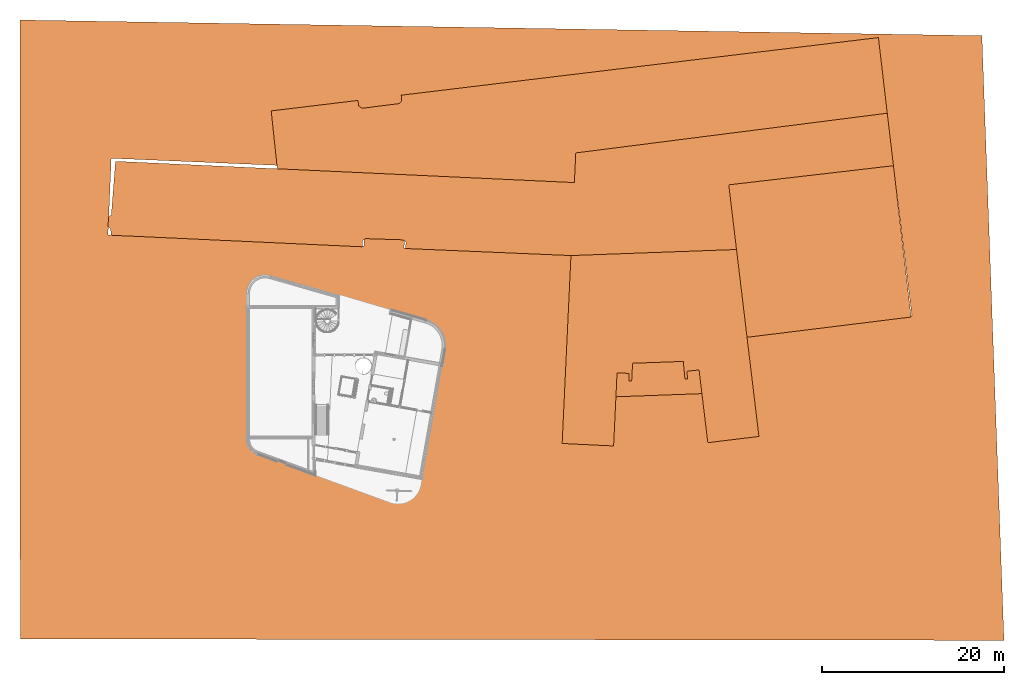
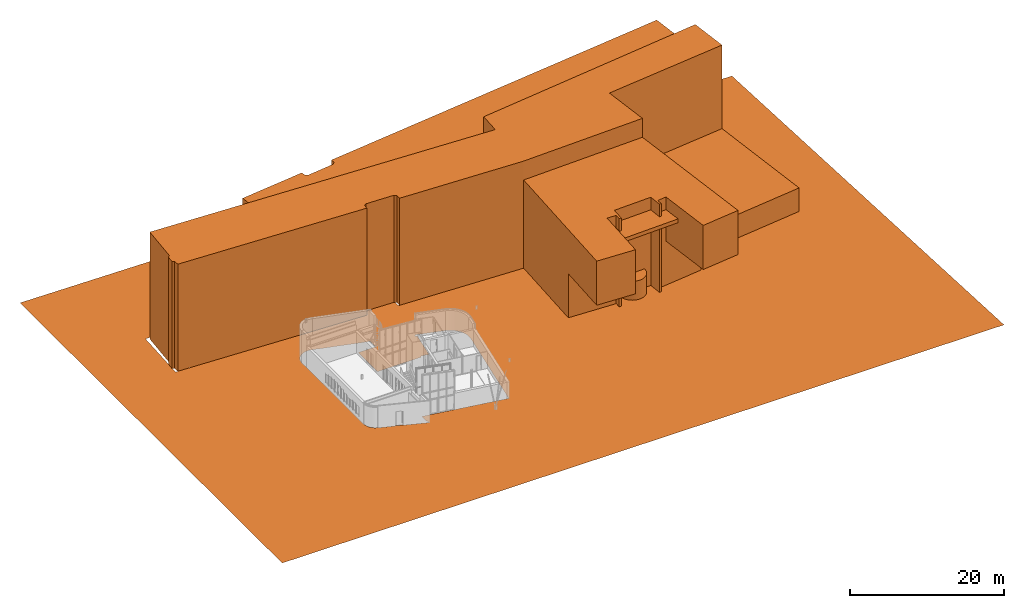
# One storey, part 21 of 21: 2 proxies.
"""IFC2X3 building model written with IfcOpenShell, lengths in millimetres."""

from ifc_helpers import new_model, entity, si_unit, converted_unit, derived_unit, direction, frame, origin, place, context, subcontext, project, spatial, face_set, faceted_brep, surface_model, source, transform, mapped, material, material_list, type_object, type_shapes, element, save


model = new_model("IFC2X3")

# Units and contexts
model_context = context("Model", 3, precision=0.01, world=origin(), true_north=direction((6.12303176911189e-17, 1.0)))
body_context = subcontext(model_context, "Body", "Model", "MODEL_VIEW")
ifc_project = project(units=[si_unit("LENGTHUNIT", "METRE", prefix="MILLI"), si_unit("AREAUNIT", "SQUARE_METRE"), si_unit("VOLUMEUNIT", "CUBIC_METRE"), converted_unit("PLANEANGLEUNIT", "DEGREE", entity("IfcRatioMeasure", 0.0174532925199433), si_unit("PLANEANGLEUNIT", "RADIAN"), dimensions=[0, 0, 0, 0, 0, 0, 0]), si_unit("MASSUNIT", "GRAM", prefix="KILO"), derived_unit("MASSDENSITYUNIT", [(si_unit("MASSUNIT", "GRAM", prefix="KILO"), 1), (si_unit("LENGTHUNIT", "METRE"), -3)]), derived_unit("MOMENTOFINERTIAUNIT", [(si_unit("LENGTHUNIT", "METRE"), 4)]), si_unit("TIMEUNIT", "SECOND"), si_unit("FREQUENCYUNIT", "HERTZ"), si_unit("THERMODYNAMICTEMPERATUREUNIT", "DEGREE_CELSIUS"), derived_unit("THERMALTRANSMITTANCEUNIT", [(si_unit("MASSUNIT", "GRAM", prefix="KILO"), 1), (si_unit("THERMODYNAMICTEMPERATUREUNIT", "KELVIN"), -1), (si_unit("TIMEUNIT", "SECOND"), -3)]), derived_unit("VOLUMETRICFLOWRATEUNIT", [(si_unit("LENGTHUNIT", "METRE"), 3), (si_unit("TIMEUNIT", "SECOND"), -1)]), si_unit("ELECTRICCURRENTUNIT", "AMPERE"), si_unit("ELECTRICVOLTAGEUNIT", "VOLT"), si_unit("POWERUNIT", "WATT"), si_unit("FORCEUNIT", "NEWTON", prefix="KILO"), si_unit("ILLUMINANCEUNIT", "LUX"), si_unit("LUMINOUSFLUXUNIT", "LUMEN"), si_unit("LUMINOUSINTENSITYUNIT", "CANDELA"), derived_unit("USERDEFINED", [(si_unit("MASSUNIT", "GRAM", prefix="KILO"), -1), (si_unit("LENGTHUNIT", "METRE"), -2), (si_unit("TIMEUNIT", "SECOND"), 3), (si_unit("LUMINOUSFLUXUNIT", "LUMEN"), 1)]), derived_unit("LINEARVELOCITYUNIT", [(si_unit("LENGTHUNIT", "METRE"), 1), (si_unit("TIMEUNIT", "SECOND"), -1)]), si_unit("PRESSUREUNIT", "PASCAL"), derived_unit("USERDEFINED", [(si_unit("LENGTHUNIT", "METRE"), -2), (si_unit("MASSUNIT", "GRAM", prefix="KILO"), 1), (si_unit("TIMEUNIT", "SECOND"), -2)]), derived_unit("LINEARFORCEUNIT", [(si_unit("MASSUNIT", "GRAM", prefix="KILO"), 1), (si_unit("LENGTHUNIT", "METRE"), 1), (si_unit("TIMEUNIT", "SECOND"), -2), (si_unit("LENGTHUNIT", "METRE"), -1)]), derived_unit("PLANARFORCEUNIT", [(si_unit("MASSUNIT", "GRAM", prefix="KILO"), 1), (si_unit("LENGTHUNIT", "METRE"), 1), (si_unit("TIMEUNIT", "SECOND"), -2), (si_unit("LENGTHUNIT", "METRE"), -2)])], contexts=[model_context])

# Site, building, storey
site_placement = place(None, origin())
site = spatial("IfcSite", under=ifc_project, at=site_placement, Name="<Kadaster Gemeente>;<Kadaster nummer>;<Kadaster sectie>", CompositionType="ELEMENT")
building_placement = place(site_placement, origin())
building = spatial("IfcBuilding", under=site, at=building_placement, Name="JRCZ Middelburg", CompositionType="ELEMENT")
storey_placement = place(building_placement, origin())
storey = spatial("IfcBuildingStorey", under=building, at=storey_placement, Name="00 begane grond", CompositionType="ELEMENT", Elevation=0.0)

# Proxies
building_element_proxy_type_1 = type_object("IfcBuildingElementProxyType", Name="Surface", PredefinedType="NOTDEFINED")
proxy_1_placement = place(storey_placement, origin())
element("IfcBuildingElementProxy", 1, at=proxy_1_placement, inside=storey, type_object=building_element_proxy_type_1, Name="Surface", context=body_context, shape_type="SurfaceModel", body=[
    surface_model("IfcFaceBasedSurfaceModel", [(-15094.2519195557, -12146.769039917, 0.0), (10413.0539337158, 8590.14950408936, 0.0), (10180.4227844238, 8853.74794921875, 0.0), (10694.6704650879, 8379.68735046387, 0.0), (10006.6054870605, 9159.34499359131, 0.0), (11013.3696166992, 8231.25571289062, 0.0), (13196.9688903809, 7436.49085235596, 0.0), (14215.5950866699, 7065.74138946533, 0.0), (-5435.78390350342, 32305.8420410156, 0.0), (9861.99803466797, 9843.64915466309, 0.0), (9861.99803466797, 11578.2769958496, 0.0), (9891.37763671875, 9565.64868164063, 0.0), (9898.94694213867, 9494.02572784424, 0.0), (9861.99803466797, 13871.8439758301, 0.0), (13210.307611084, 7473.13919677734, 0.0), (14228.9349700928, 7102.38973388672, 0.0), (17343.9994812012, 5927.09519348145, 0.0), (17343.9994812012, 6311.96239929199, 0.0), (17254.0003234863, 7577.8595489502, 0.0), (17254.0003234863, 6311.96239929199, 0.0), (17314.0001495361, 21597.0096496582, 0.0), (17314.0001495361, 19930.0114013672, 0.0), (17337.9998474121, 19930.0114013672, 0.0), (17337.9998474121, 19228.6228179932, 0.0), (17909.3568328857, 19228.6228179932, 0.0), (17337.9998474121, 21597.0096496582, 0.0), (21011.0756469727, 19228.6228179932, 0.0), (29093.9915771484, 5490.1491897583, 0.0), (9903.90594177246, 26297.3669311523, 0.0), (10027.8658172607, 26686.6199157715, 0.0), (9861.99803466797, 25891.008013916, 0.0), (10497.8324798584, 27349.6771179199, 0.0), (13818.1391143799, 31485.8432556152, 0.0), (10824.05675354, 27595.5667602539, 0.0), (10228.6582122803, 27042.3819213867, 0.0), (-15125.8185974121, 55993.2054931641, 0.0), (-5075.38439025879, 40768.1720214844, 0.0), (3275.4553024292, 40412.5193115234, 0.0), (11193.596987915, 27769.7026428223, 0.0), (11590.9006439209, 27864.7549804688, 0.0), (52183.0799194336, 38329.6069152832, 0.0), (19827.9129821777, 24262.0004699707, 0.0), (17337.9998474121, 21666.0938049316, 0.0), (19937.6318664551, 24262.0004699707, 0.0), (17337.9998474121, 24262.0004699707, 0.0), (19937.6318664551, 25646.1369140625, 0.0), (19937.6318664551, 24376.3888366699, 0.0), (20958.1091125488, 25440.305291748, 0.0), (11999.2396728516, 27876.7193664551, 0.0), (12401.426751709, 27805.0958312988, 0.0), (15088.4987823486, 27011.637286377, 0.0), (15094.7716552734, 27033.510369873, 0.0), (13364.3737884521, 27529.2335998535, 0.0), (22729.6451660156, 31106.3152587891, 0.0), (13358.2288146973, 27507.7837463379, 0.0), (23925.1256835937, 19228.6228179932, 0.0), (23967.4626342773, 19468.7279296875, 0.0), (22530.3177978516, 23621.6116516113, 0.0), (25106.2094055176, 19267.935534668, 0.0), (25642.4092346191, 22308.8731750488, 0.0), (25773.1128845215, 23050.130255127, 0.0), (24958.7323608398, 22659.1238891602, 0.0), (33566.2511535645, 30644.7992431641, 0.0), (30505.0310302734, 22441.5069396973, 0.0), (30890.5563354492, 22092.9026367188, 0.0), (30062.3208435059, 22713.8345031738, 0.0), (29577.3202148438, 22900.727746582, 0.0), (31205.9254577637, 21679.7511108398, 0.0), (44948.7121948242, 17611.576171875, 0.0), (52267.7956787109, 17268.3296813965, 0.0), (52324.8340576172, 18400.2943084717, 0.0), (58016.328515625, 17478.154083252, 0.0), (31586.485949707, 20717.0982421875, 0.0), (38448.3740844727, 30436.8747253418, 0.0), (93210.8407470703, -12306.59765625, 0.0), (65212.2939331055, 18346.094128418, 0.0), (64856.4830932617, 21226.436920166, 0.0), (83063.0973632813, 23475.501965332, 0.0), (57909.0280883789, 18604.4411499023, 0.0), (31527.5174560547, 19293.9176696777, 0.0), (31440.5343933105, 21215.946862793, 0.0), (31638.873449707, 20199.9809692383, 0.0), (31595.9342102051, 19681.9939819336, 0.0), (24957.5231323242, 24294.9007873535, 0.0), (25649.880871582, 23708.5714599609, 0.0), (25877.711151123, 23643.3382324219, 0.0), (27165.6116088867, 30917.3942321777, 0.0), (25734.2245605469, 24002.7162963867, 0.0), (22762.2989868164, 31872.708013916, 0.0), (23227.4775695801, 32112.5747680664, 0.0), (26693.4869384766, 32001.100177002, 0.0), (27000.7402770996, 23639.5500915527, 0.0), (40937.2640258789, 30330.8765441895, 0.0), (45536.5135253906, 30135.0001281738, 0.0), (90782.1331787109, 54262.8413452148, 0.0), (27198.2514770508, 31683.7893127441, 0.0), (57155.7205810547, 38117.8291442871, 0.0), (81381.7767333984, 37086.0711914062, 0.0), (55476.6649291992, 38189.3364074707, 0.0)], [face_set([[[0, 1, 2]], [[1, 0, 3]], [[0, 2, 4]], [[5, 3, 0]], [[6, 5, 0]], [[0, 7, 6]], [[8, 9, 10]], [[9, 8, 0]], [[11, 9, 0]], [[4, 12, 0]], [[0, 12, 11]], [[8, 10, 13]], [[14, 7, 15]], [[7, 14, 6]], [[7, 0, 16]], [[17, 18, 19]], [[20, 21, 22]], [[23, 24, 22]], [[20, 22, 25]], [[24, 26, 25]], [[25, 22, 24]], [[27, 18, 17]], [[0, 27, 16]], [[28, 29, 8]], [[30, 28, 8]], [[8, 31, 32]], [[32, 31, 33]], [[29, 34, 8]], [[35, 8, 36]], [[8, 35, 0]], [[35, 36, 37]], [[38, 32, 33]], [[8, 34, 31]], [[32, 38, 39]], [[40, 35, 37]], [[8, 13, 30]], [[41, 42, 43]], [[44, 42, 41]], [[25, 26, 42]], [[45, 46, 47]], [[48, 49, 32]], [[50, 51, 52]], [[52, 32, 49]], [[32, 52, 51]], [[32, 51, 53]], [[50, 52, 54]], [[48, 32, 39]], [[51, 45, 53]], [[17, 16, 27]], [[26, 55, 56]], [[56, 57, 26]], [[56, 58, 59]], [[60, 61, 59]], [[59, 61, 56]], [[62, 63, 64]], [[62, 65, 63]], [[62, 66, 65]], [[64, 67, 62]], [[57, 56, 61]], [[68, 27, 69]], [[70, 69, 71]], [[72, 68, 73]], [[71, 74, 75]], [[71, 69, 27]], [[76, 75, 77]], [[70, 71, 78]], [[79, 27, 68]], [[80, 72, 73]], [[68, 81, 82]], [[82, 79, 68]], [[72, 81, 68]], [[73, 67, 80]], [[75, 74, 77]], [[74, 71, 27]], [[27, 0, 74]], [[57, 47, 43]], [[57, 43, 26]], [[83, 57, 61]], [[84, 83, 61]], [[85, 84, 60]], [[86, 83, 87]], [[60, 84, 61]], [[87, 83, 84]], [[53, 47, 83]], [[88, 53, 89]], [[45, 47, 53]], [[53, 90, 89]], [[86, 90, 53]], [[83, 86, 53]], [[47, 57, 83]], [[46, 43, 47]], [[62, 86, 66]], [[67, 73, 62]], [[66, 86, 91]], [[92, 73, 68]], [[68, 93, 92]], [[94, 35, 40]], [[86, 95, 90]], [[96, 97, 94]], [[98, 94, 40]], [[94, 98, 96]], [[97, 77, 94]], [[77, 74, 94]], [[91, 86, 87]], [[26, 43, 42]]])]),
])
ifc_material = material(Name="Default wit")
ifc_material_list = material_list([ifc_material, ifc_material, ifc_material, ifc_material, ifc_material, ifc_material])
building_element_proxy_type_2 = type_object("IfcBuildingElementProxyType", Name="Hogeschool gebouw1:Hogeschool gebouw", PredefinedType="NOTDEFINED", material=ifc_material)
shared_shape = source(origin(), body_context, "Body", "Brep", [
    faceted_brep([(88446.247094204, 14197.4599020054, 3730.0), (86490.6622288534, 30855.3763923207, 3730.0), (68361.1464360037, 28750.2410151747, 3730.0), (70372.6931738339, 11964.8319900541, 3730.0), (88446.247094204, 14197.4599020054, 0.0), (70372.693173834, 11964.8319900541, 0.0), (68361.1464360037, 28750.2410151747, 0.0), (86490.6622288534, 30855.3763923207, 0.0)], [[[0, 1, 2, 3]], [[4, 5, 6, 7]], [[4, 7, 1, 0]], [[7, 6, 2, 1]], [[6, 5, 3, 2]], [[5, 4, 0, 3]]]),
    faceted_brep([(65403.9093006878, 5760.92586098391, 12000.0), (65087.8229796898, 8380.25779092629, 12000.0), (63460.6208299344, 8183.99296833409, 12000.0), (63353.2551545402, 9310.94279789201, 12000.0), (61541.4218863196, 9244.04120529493, 12000.0), (57769.1262959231, 9106.13340111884, 12000.0), (57712.0877831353, 7974.16902949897, 12000.0), (56061.1498441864, 8051.59374843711, 12000.0), (55937.2233872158, 5414.84220028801, 12000.0), (65403.9093006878, 5760.92586098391, 11400.0), (55937.2233872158, 5414.84220028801, 11400.0), (56061.1498441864, 8051.59374843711, 11400.0), (57712.0877831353, 7974.16902949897, 11400.0), (57769.1262959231, 9106.13340111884, 11400.0), (61541.4218863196, 9244.04120529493, 11400.0), (63353.2551545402, 9310.94279789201, 11400.0), (63460.6208299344, 8183.99296833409, 11400.0), (65087.8229796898, 8380.25779092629, 11400.0)], [[[0, 1, 2, 3, 4, 5, 6, 7, 8]], [[9, 10, 11, 12, 13, 14, 15, 16, 17]], [[9, 17, 1, 0]], [[17, 16, 2, 1]], [[16, 15, 3, 2]], [[15, 14, 4, 3]], [[14, 13, 5, 4]], [[13, 12, 6, 5]], [[12, 11, 7, 6]], [[11, 10, 8, 7]], [[10, 9, 0, 8]]]),
    faceted_brep([(61719.1710914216, 7782.93528419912, 3000.0), (61832.9435385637, 7886.39300457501, 3000.0), (61937.8024340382, 7998.87536618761, 3000.0), (62033.0343320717, 8119.61705422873, 3000.0), (62117.9912876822, 8247.79655854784, 3000.0), (62192.095265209, 8382.5417630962, 3000.0), (62254.8420711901, 8522.93587968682, 3000.0), (62305.8047848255, 8668.02368569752, 3000.0), (62344.6366626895, 8816.81802327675, 3000.0), (62371.0734979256, 8968.30651583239, 3000.0), (62384.9354178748, 9121.45845610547, 3000.0), (62386.1281079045, 9275.23181896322, 3000.0), (61541.421886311, 9244.04120529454, 3000.0), (58660.0422213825, 9138.70355794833, 3000.0), (58672.4854854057, 8985.42983282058, 3000.0), (58697.5185278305, 8833.70305067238, 3000.0), (58734.9710272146, 8684.55554005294, 3000.0), (58784.5881618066, 8539.00208049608, 3000.0), (58846.0323433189, 8398.03299809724, 3000.0), (58918.8855138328, 8262.60742746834, 3000.0), (59002.6519902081, 8133.64678591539, 3000.0), (59096.7618366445, 8012.02850423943, 3000.0), (59200.5747424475, 7898.58005681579, 3000.0), (59313.3843786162, 7794.07333157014, 3000.0), (59434.4232036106, 7699.21937815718, 3000.0), (59562.8676856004, 7614.66357007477, 3000.0), (59697.8439056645, 7540.98121362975, 3000.0), (59838.4335038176, 7478.67363363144, 3000.0), (59983.6799274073, 7428.16476244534, 3000.0), (60132.5949393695, 7389.79825561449, 3000.0), (60284.1653420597, 7363.83515367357, 3000.0), (60437.3598709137, 7350.45210606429, 3000.0), (60591.1362110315, 7349.74016923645, 3000.0), (60744.4480889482, 7361.70418711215, 3000.0), (60896.252391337, 7386.26275812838, 3000.0), (61045.5162622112, 7423.24878908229, 3000.0), (61191.2241303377, 7472.41063201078, 3000.0), (61332.3846190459, 7533.41379636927, 3000.0), (61468.0372914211, 7605.84322486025, 3000.0), (61597.2591849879, 7689.20611742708, 3000.0), (58784.5881618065, 8539.00208049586, 0.0), (58734.9710272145, 8684.55554005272, 0.0), (58697.5185278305, 8833.70305067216, 0.0), (58672.4854854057, 8985.42983282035, 0.0), (58660.0422213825, 9138.70355794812, 0.0), (61541.421886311, 9244.0412052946, 0.0), (62386.1281079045, 9275.23181896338, 0.0), (62384.9354178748, 9121.45845610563, 0.0), (62371.0734979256, 8968.30651583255, 0.0), (62344.6366626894, 8816.8180232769, 0.0), (62305.8047848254, 8668.02368569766, 0.0), (62254.84207119, 8522.93587968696, 0.0), (62192.0952652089, 8382.54176309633, 0.0), (62117.9912876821, 8247.79655854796, 0.0), (62033.0343320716, 8119.61705422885, 0.0), (61937.8024340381, 7998.87536618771, 0.0), (61832.9435385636, 7886.3930045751, 0.0), (61719.1710914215, 7782.9352841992, 0.0), (61597.2591849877, 7689.20611742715, 0.0), (61468.037291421, 7605.8432248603, 0.0), (61332.3846190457, 7533.41379636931, 0.0), (61191.2241303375, 7472.4106320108, 0.0), (61045.5162622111, 7423.2487890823, 0.0), (60896.2523913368, 7386.26275812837, 0.0), (60744.4480889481, 7361.70418711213, 0.0), (60591.1362110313, 7349.74016923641, 0.0), (60437.3598709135, 7350.45210606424, 0.0), (60284.1653420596, 7363.8351536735, 0.0), (60132.5949393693, 7389.79825561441, 0.0), (59983.6799274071, 7428.16476244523, 0.0), (59838.4335038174, 7478.67363363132, 0.0), (59697.8439056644, 7540.98121362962, 0.0), (59562.8676856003, 7614.66357007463, 0.0), (59434.4232036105, 7699.21937815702, 0.0), (59313.3843786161, 7794.07333156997, 0.0), (59200.5747424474, 7898.58005681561, 0.0), (59096.7618366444, 8012.02850423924, 0.0), (59002.651990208, 8133.64678591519, 0.0), (58918.8855138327, 8262.60742746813, 0.0), (58846.0323433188, 8398.03299809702, 0.0)], [[[0, 1, 2, 3, 4, 5, 6, 7, 8, 9, 10, 11, 12, 13, 14, 15, 16, 17, 18, 19, 20, 21, 22, 23, 24, 25, 26, 27, 28, 29, 30, 31, 32, 33, 34, 35, 36, 37, 38, 39]], [[40, 41, 42, 43, 44, 45, 46, 47, 48, 49, 50, 51, 52, 53, 54, 55, 56, 57, 58, 59, 60, 61, 62, 63, 64, 65, 66, 67, 68, 69, 70, 71, 72, 73, 74, 75, 76, 77, 78, 79]], [[11, 46, 45, 12]], [[12, 45, 44, 13]], [[44, 43, 14, 13]], [[42, 15, 14, 43]], [[15, 42, 41, 16]], [[79, 18, 17, 40]], [[77, 20, 19, 78]], [[18, 79, 78, 19]], [[16, 41, 40, 17]], [[76, 21, 20, 77]], [[74, 23, 22, 75]], [[72, 25, 24, 73]], [[23, 74, 73, 24]], [[25, 72, 71, 26]], [[27, 70, 69, 28]], [[68, 67, 30, 29]], [[68, 29, 28, 69]], [[70, 27, 26, 71]], [[75, 22, 21, 76]], [[30, 67, 66, 31]], [[65, 32, 31, 66]], [[59, 38, 37, 60]], [[58, 39, 38, 59]], [[58, 57, 0, 39]], [[63, 34, 33, 64]], [[36, 35, 62, 61]], [[37, 36, 61, 60]], [[63, 62, 35, 34]], [[56, 1, 0, 57]], [[7, 6, 51, 50]], [[9, 8, 49, 48]], [[50, 49, 8, 7]], [[10, 9, 48, 47]], [[3, 2, 55, 54]], [[53, 52, 5, 4]], [[53, 4, 3, 54]], [[51, 6, 5, 52]], [[2, 1, 56, 55]], [[11, 10, 47, 46]], [[32, 65, 64, 33]]]),
    faceted_brep([(50015.539877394, 275.461904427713, 14000.0), (55682.7269767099, 0.0, 14000.0), (56061.1498441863, 8051.59374843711, 14000.0), (57400.5240160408, 7988.7805642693, 14000.0), (57365.9095075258, 7161.29350409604, 14000.0), (57670.856727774, 7145.25627627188, 14000.0), (57712.0752793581, 7973.92088434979, 14000.0), (57769.1262959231, 9106.13340111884, 14000.0), (61541.4218863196, 9244.04120529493, 14000.0), (63353.2551545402, 9310.94279789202, 14000.0), (63460.622911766, 8183.97111665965, 14000.0), (63539.2329175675, 7363.4990195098, 14000.0), (63831.1421025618, 7395.10640949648, 14000.0), (63752.3443434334, 8219.17917038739, 14000.0), (65087.8229796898, 8380.25779092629, 14000.0), (66055.2402696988, 363.501515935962, 14000.0), (71680.9358038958, 1048.16411616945, 14000.0), (69214.3445302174, 21630.7052263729, 14000.0), (50986.6183014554, 20964.6694946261, 14000.0), (50986.6183014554, 20964.6694946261, 0.0), (69214.3445302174, 21630.7052263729, 0.0), (70720.8432271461, 9059.68395791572, 0.0), (63752.3443434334, 8219.17917038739, 0.0), (63831.1421025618, 7395.10640949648, 0.0), (63539.2329175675, 7363.4990195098, 0.0), (63460.622911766, 8183.97111665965, 0.0), (63353.2551545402, 9310.94279789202, 0.0), (61541.4218863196, 9244.04120529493, 0.0), (57769.1262959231, 9106.13340111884, 0.0), (57712.0752793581, 7973.92088434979, 0.0), (57670.856727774, 7145.25627627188, 0.0), (57365.9095075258, 7161.29350409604, 0.0), (57400.5240160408, 7988.7805642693, 0.0), (50393.000801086, 8317.41527704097, 0.0), (56061.1498441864, 8051.59374843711, 7000.0), (50393.000801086, 8317.41527704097, 7000.0), (70720.8432271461, 9059.68395791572, 7000.0), (65087.8229796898, 8380.25779092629, 7000.0), (71680.9358038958, 1048.16411616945, 7000.0), (50015.539877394, 275.461904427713, 7000.0), (55682.7269767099, 0.0, 7000.0), (66055.2402696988, 363.501515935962, 7000.0), (57365.9095075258, 7161.29350409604, 7000.0), (57670.856727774, 7145.25627627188, 7000.0), (63539.2329175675, 7363.4990195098, 7000.0), (63831.1421025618, 7395.10640949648, 7000.0)], [[[0, 1, 2, 3, 4, 5, 6, 7, 8, 9, 10, 11, 12, 13, 14, 15, 16, 17, 18]], [[19, 20, 21, 22, 23, 24, 25, 26, 27, 28, 29, 30, 31, 32, 33]], [[3, 2, 34, 35, 33, 32]], [[7, 6, 29, 28]], [[8, 7, 28, 27]], [[9, 8, 27, 26]], [[10, 9, 26, 25]], [[14, 13, 22, 21, 36, 37]], [[17, 16, 38, 36, 21, 20]], [[18, 17, 20, 19]], [[0, 18, 19, 33, 35, 39]], [[1, 0, 39, 40]], [[2, 1, 40, 34]], [[15, 14, 37, 41]], [[16, 15, 41, 38]], [[35, 34, 40, 39]], [[4, 3, 32, 31, 42]], [[5, 4, 42, 31, 30, 43]], [[6, 5, 43, 30, 29]], [[11, 10, 25, 24, 44]], [[12, 11, 44, 24, 23, 45]], [[22, 13, 12, 45, 23]], [[37, 36, 38, 41]]]),
    faceted_brep([(51363.7535368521, 28999.6891537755, 13000.0), (51516.9465197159, 32263.5279930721, 13000.0), (85812.116054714, 36635.3175771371, 13000.0), (84834.6450743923, 44961.5376509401, 13000.0), (32297.3528884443, 38618.9343433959, 13000.0), (32356.4384578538, 37997.1297955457, 13000.0), (32084.4129126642, 37696.0532201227, 13000.0), (27989.6306393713, 37178.9767058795, 13000.0), (27609.3905741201, 37461.8715496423, 13000.0), (27537.3703995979, 38044.1198606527, 13000.0), (17983.252679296, 36891.0888389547, 13000.0), (18657.5731846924, 30519.4582110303, 13000.0), (51363.7535368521, 28999.6891537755, 0.0), (18657.5731846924, 30519.4582110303, 0.0), (17983.252679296, 36891.0888389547, 0.0), (27537.3703995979, 38044.1198606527, 0.0), (27609.3905741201, 37461.8715496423, 0.0), (27989.6306393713, 37178.9767058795, 0.0), (32084.4129126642, 37696.0532201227, 0.0), (32356.4384578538, 37997.1297955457, 0.0), (32297.3528884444, 38618.9343433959, 0.0), (84834.6450743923, 44961.5376509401, 0.0), (85812.116054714, 36635.3175771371, 0.0), (51516.9465197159, 32263.5279930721, 0.0)], [[[0, 1, 2, 3, 4, 5, 6, 7, 8, 9, 10, 11]], [[12, 13, 14, 15, 16, 17, 18, 19, 20, 21, 22, 23]], [[12, 23, 1, 0]], [[23, 22, 2, 1]], [[21, 20, 4, 3]], [[20, 19, 5, 4]], [[19, 18, 6, 5]], [[18, 17, 7, 6]], [[17, 16, 8, 7]], [[16, 15, 9, 8]], [[15, 14, 10, 9]], [[14, 13, 11, 10]], [[13, 12, 0, 11]], [[22, 21, 3, 2]]]),
    faceted_brep([(69214.3445302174, 21630.7052263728, 0.0), (68476.9129642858, 27784.2239239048, 0.0), (68476.9129642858, 27784.2239239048, 17000.0), (69214.3445302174, 21630.7052263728, 17000.0), (68360.9976884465, 28750.2237431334, 0.0), (68360.9976884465, 28750.2237431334, 17000.0), (86490.6622288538, 30855.3763923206, 0.0), (86490.6622288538, 30855.3763923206, 17000.0), (85812.116054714, 36635.3175771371, 0.0), (85812.116054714, 36635.3175771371, 17000.0), (51516.9465197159, 32263.5279930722, 0.0), (51516.9465197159, 32263.5279930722, 17000.0), (51363.7535368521, 28999.6891537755, 0.0), (842.639828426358, 31347.2706972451, 0.0), (842.639828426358, 31347.2706972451, 17000.0), (51363.7535368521, 28999.6891537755, 17000.0), (377.951838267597, 25441.6169611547, 0.0), (377.951838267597, 25441.6169611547, 17000.0), (93.2290611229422, 25229.5840851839, 0.0), (93.2290611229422, 25229.5840851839, 17000.0), (0.0, 24162.6949882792, 0.0), (0.0, 24162.6949882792, 17000.0), (301.605129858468, 23928.4678639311, 0.0), (301.605129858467, 23928.4678639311, 17000.0), (349.897166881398, 23204.5583287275, 0.0), (349.897166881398, 23204.5583287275, 17000.0), (28001.1604889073, 21927.6492852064, 0.0), (28001.1604889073, 21927.6492852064, 17000.0), (28048.7457073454, 22628.8915027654, 0.0), (28048.7457073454, 22628.8915027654, 17000.0), (28360.2261589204, 22828.4333037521, 0.0), (28360.2261589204, 22828.4333037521, 17000.0), (32497.797505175, 22695.3605302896, 0.0), (32814.1297668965, 22439.6831979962, 0.0), (32814.1297668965, 22439.6831979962, 17000.0), (32497.797505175, 22695.3605302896, 17000.0), (32765.9472685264, 21739.2430159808, 0.0), (32765.9472685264, 21739.2430159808, 17000.0), (50986.6183014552, 20964.6694946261, 0.0), (50986.6183014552, 20964.6694946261, 17000.0)], [[[0, 1, 2, 3]], [[1, 4, 5, 2]], [[4, 6, 7, 5]], [[6, 8, 9, 7]], [[8, 10, 11, 9]], [[12, 13, 14, 15]], [[13, 16, 17, 14]], [[16, 18, 19, 17]], [[18, 20, 21, 19]], [[20, 22, 23, 21]], [[22, 24, 25, 23]], [[24, 26, 27, 25]], [[26, 28, 29, 27]], [[28, 30, 31, 29]], [[32, 33, 34, 35]], [[33, 36, 37, 34]], [[36, 38, 39, 37]], [[10, 12, 15, 11]], [[19, 21, 23, 25, 27, 29, 31, 35, 34, 37, 39, 3, 2, 5, 7, 9, 11, 15, 14, 17]], [[18, 16, 13, 12, 10, 8, 6, 4, 1, 0, 38, 36, 33, 32, 30, 28, 26, 24, 22, 20]], [[30, 32, 35, 31]], [[38, 0, 3, 39]]]),
])
type_shapes(building_element_proxy_type_2, [shared_shape])
proxy_2_placement = place(storey_placement, frame((-5453.36527745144, 9094.36731770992, 0.0)))
element("IfcBuildingElementProxy", 2, at=proxy_2_placement, inside=storey, type_object=building_element_proxy_type_2, material=ifc_material_list, Name="Hogeschool gebouw1:Hogeschool gebouw", ObjectType="Hogeschool gebouw1:Hogeschool gebouw", context=body_context, shape_type="MappedRepresentation", body=[
    mapped(shared_shape, transform((0.0, 0.0, 0.0), scale=1.0)),
])

save(model, "model.ifc")
